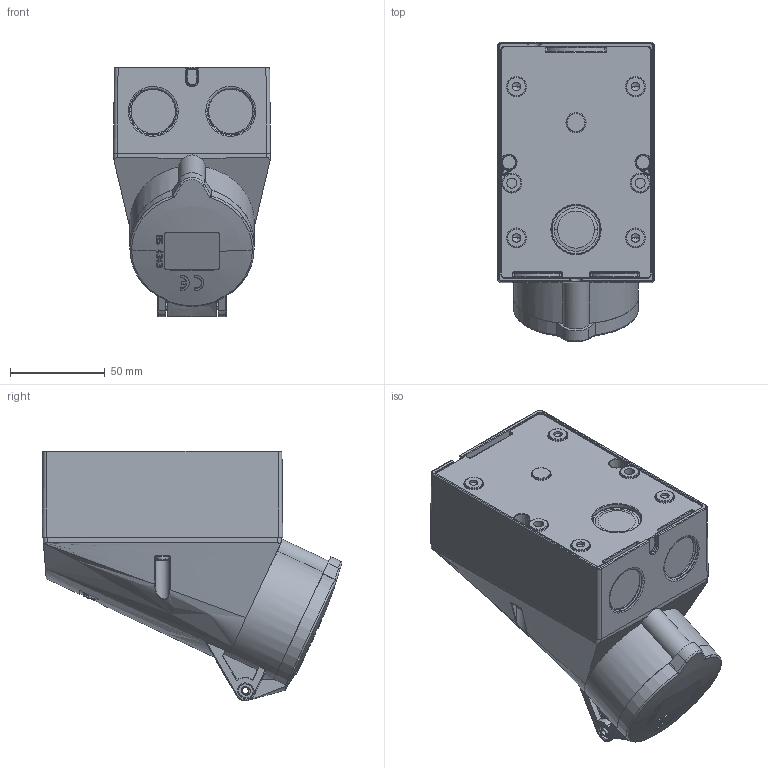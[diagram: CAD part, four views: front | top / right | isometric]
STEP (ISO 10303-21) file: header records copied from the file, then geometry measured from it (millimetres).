
FILE_DESCRIPTION((''),'2;1');
FILE_NAME('1124114_ASM_SW0002','2019-09-26T09:43:56',('kremer'),('MENNEKES'),'CREO PARAMETRIC BY PTC INC, 2018260','CREO PARAMETRIC BY PTC INC, 2018260','');
FILE_SCHEMA(('AUTOMOTIVE_DESIGN { 1 0 10303 214 1 1 1 1 }'));
Products named in the file (1): 1124114_ASM_SW0002
Bounding box: 83 x 158.45 x 132.24 mm (x, y, z)
Volume: 926661 mm3; surface area: 70802.1 mm2
Topology: 1 solids, 1 shells, 1243 faces, 3308 edges, 2119 vertices
Faces by surface type: plane 572, extrusion 214, cylinder 150, bspline 133, cone 75, torus 70, sphere 29
Entity records: 68099 total; most frequent: CARTESIAN_POINT 25803, ORIENTED_EDGE 6600, DIRECTION 4627, EDGE_CURVE 3300, VERTEX_POINT 2119, FILL_AREA_STYLE_COLOUR 2117, FILL_AREA_STYLE 2117, SURFACE_STYLE_FILL_AREA 2117
